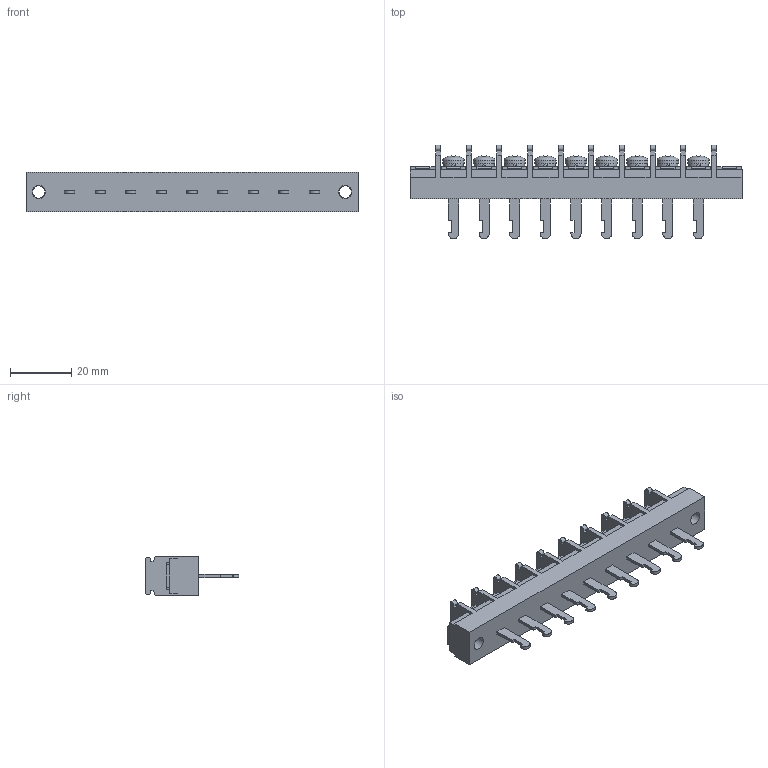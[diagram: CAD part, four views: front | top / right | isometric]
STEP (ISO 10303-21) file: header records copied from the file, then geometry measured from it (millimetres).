
FILE_DESCRIPTION(/* description */ ('Alibre Inc.'),/* implementation_level */ '2;1');
FILE_NAME(/* name */ 'export0',/* time_stamp */ '2015-10-17T19:15:16+09:00',/* author */ (''),/* organization */ (''),/* preprocessor_version */ 'ST-DEVELOPER v14',/* originating_system */ 'Alibre',/* authorisation */ '');
FILE_SCHEMA (('CONFIG_CONTROL_DESIGN'));
Length unit declared in the file: centimetre
Products named in the file (1): ID_1
Bounding box: 108.4 x 30.5 x 13 mm (x, y, z)
Volume: 16250.6 mm3; surface area: 9965.8 mm2
Topology: 1 solids, 17 shells, 1043 faces, 2849 edges, 1891 vertices
Faces by surface type: plane 794, bspline 104, cylinder 82, cone 36, torus 18, sphere 9
Full cylindrical faces by diameter (mm): 4 x11, 4.2 x2, 6.5 x9, 7 x9
Entity records: 31763 total; most frequent: CARTESIAN_POINT 6889, ORIENTED_EDGE 5560, DIRECTION 3991, EDGE_CURVE 2780, VECTOR 2064, LINE 2064, VERTEX_POINT 1862, AXIS2_PLACEMENT_3D 1355
